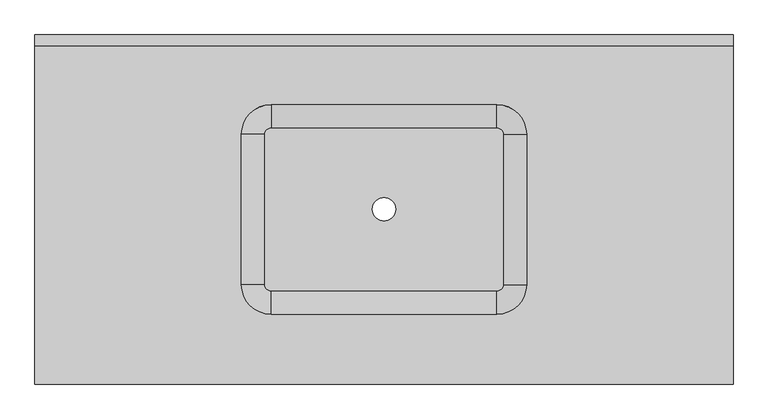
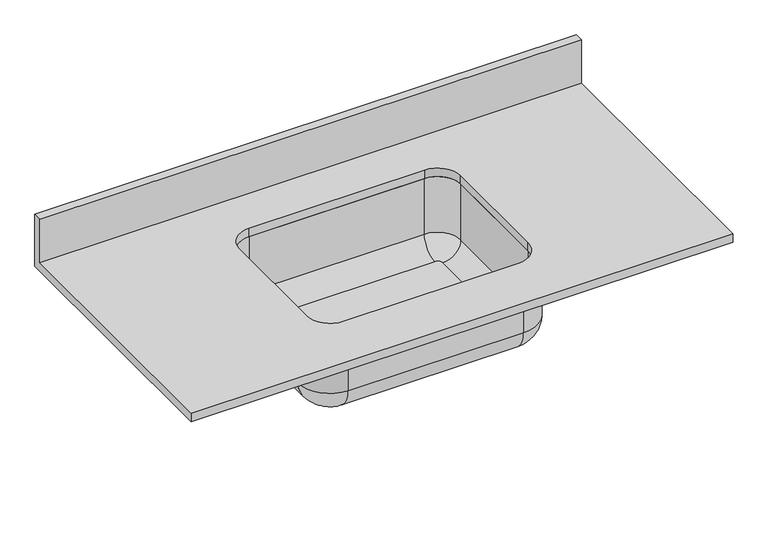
"""IFC4 building model written with IfcOpenShell, lengths in millimetres: furniture geometry, Tampo de Bancada com Cuba : Granilite 60cm."""

import ifcopenshell
import ifcopenshell.guid

model = None  # the IFC model being written
_history = None  # IfcOwnerHistory: only IFC2X3 demands one
_inside = {}  # id of a spatial element -> (the spatial element, [elements in it])
_under = {}  # id of a project, library or spatial element -> (it, [spatial elements below it])
_declared = {}  # id of a project -> (the project, [libraries it declares])
_typed = {}  # id of a type object -> (the type object, [elements of that type])
_made_of = {}  # id of a material, layer set ... -> (it, [elements and type objects made of it])


def new_model(schema):
    """Start an empty IFC model of exactly this schema.

    Asked for "IFC4X3", IfcOpenShell would pick the latest addendum, in which some entities
    have other attributes; the version numbers below select the first issue.
    IFC2X3 requires an IfcOwnerHistory on every rooted entity: one is made here for all.
    """
    global model, _history
    if schema == "IFC4X3":
        model = ifcopenshell.file(schema_version=(4, 3, 0, 0))
    else:
        model = ifcopenshell.file(schema=schema)
    _inside.clear()
    _under.clear()
    _declared.clear()
    _typed.clear()
    _made_of.clear()
    _history = None
    if model.schema == "IFC2X3":
        org = make("IfcOrganization", Name="unknown")
        user = make(
            "IfcPersonAndOrganization",
            ThePerson=make("IfcPerson", FamilyName="unknown"),
            TheOrganization=org,
        )
        app = make(
            "IfcApplication",
            ApplicationDeveloper=org,
            Version="unknown",
            ApplicationFullName="unknown",
            ApplicationIdentifier="unknown",
        )
        _history = make(
            "IfcOwnerHistory",
            OwningUser=user,
            OwningApplication=app,
            ChangeAction="ADDED",
            CreationDate=0,
        )
    return model


def make(cls, **values):
    """One entity of the class cls with the attributes given. An attribute that is None is left unset."""
    return model.create_entity(
        cls, **{name: value for name, value in values.items() if value is not None}
    )


def rooted(cls, **values):
    """An entity with a GlobalId (a new one), such as an element, a storey or a relation."""
    return make(cls, GlobalId=ifcopenshell.guid.new(), OwnerHistory=_history, **values)


def si_unit(unit_type, name, prefix=None):
    """IfcSIUnit, for example si_unit("LENGTHUNIT", "METRE", prefix="MILLI")."""
    return make("IfcSIUnit", UnitType=unit_type, Prefix=prefix, Name=name)


def assignment(units):
    """IfcUnitAssignment: the units of a project."""
    return None if units is None else make("IfcUnitAssignment", Units=units)


def point(xyz):
    """IfcCartesianPoint."""
    return None if xyz is None else make("IfcCartesianPoint", Coordinates=xyz)


def direction(xyz):
    """IfcDirection."""
    return None if xyz is None else make("IfcDirection", DirectionRatios=xyz)


def frame(location, z_axis=None, x_axis=None):
    """IfcAxis2Placement3D, a coordinate frame: its origin and axes. An axis left out is left unset."""
    return make(
        "IfcAxis2Placement3D",
        Location=point(location),
        Axis=direction(z_axis),
        RefDirection=direction(x_axis),
    )


def origin():
    """The frame at (0, 0, 0) with its axes left unset."""
    return frame((0.0, 0.0, 0.0))


def place(relative_to, where):
    """IfcLocalPlacement: puts the frame where relative to a parent placement (None: the world)."""
    return make(
        "IfcLocalPlacement", PlacementRelTo=relative_to, RelativePlacement=where
    )


def context(
    kind, dimensions, precision=None, world=None, true_north=None, identifier=None
):
    """IfcGeometricRepresentationContext, for example the 3D "Model" context."""
    return make(
        "IfcGeometricRepresentationContext",
        ContextIdentifier=identifier,
        ContextType=kind,
        CoordinateSpaceDimension=dimensions,
        Precision=precision,
        WorldCoordinateSystem=world,
        TrueNorth=true_north,
    )


def project(units=None, contexts=None):
    """IfcProject with its units and contexts."""
    return rooted(
        "IfcProject",
        Name="project",
        RepresentationContexts=contexts,
        UnitsInContext=assignment(units),
    )


def spatial(cls, under=None, at=None, **own):
    """A site, building, storey or space (cls), placed at a placement, below another one or the project."""
    s = rooted(cls, ObjectPlacement=at, **own)
    if under is not None:
        _under.setdefault(under.id(), (under, []))[1].append(s)
    return s


def polyline(points):
    """IfcPolyline through the points."""
    return make("IfcPolyline", Points=[point(p) for p in points])


def circle_curve(where, radius):
    """IfcCircle in the frame where."""
    return make("IfcCircle", Position=where, Radius=radius)


def ellipse_curve(where, semi_axis1, semi_axis2):
    """IfcEllipse in the frame where."""
    return make(
        "IfcEllipse", Position=where, SemiAxis1=semi_axis1, SemiAxis2=semi_axis2
    )


def trimmed(basis, trim1, trim2, sense, master):
    """IfcTrimmedCurve: the piece of a basis curve between two trims."""
    return make(
        "IfcTrimmedCurve",
        BasisCurve=basis,
        Trim1=trim1,
        Trim2=trim2,
        SenseAgreement=sense,
        MasterRepresentation=master,
    )


def shape(context_of_items, identifier, shape_type, items):
    """IfcShapeRepresentation: the items that make up one representation, for example the "Body"."""
    return make(
        "IfcShapeRepresentation",
        ContextOfItems=context_of_items,
        RepresentationIdentifier=identifier,
        RepresentationType=shape_type,
        Items=items,
    )


def source(mapping_origin, context_of_items, identifier, shape_type, items):
    """IfcRepresentationMap: a shape defined once, which mapped items show again and again."""
    return make(
        "IfcRepresentationMap",
        MappingOrigin=mapping_origin,
        MappedRepresentation=shape(context_of_items, identifier, shape_type, items),
    )


def transform(
    local_origin,
    x_axis=None,
    y_axis=None,
    z_axis=None,
    scale=None,
    scale2=None,
    scale3=None,
    uniform=True,
):
    """IfcCartesianTransformationOperator3D, or its non-uniform kind. x_axis, y_axis, z_axis: its Axis1, 2, 3."""
    if uniform:
        return make(
            "IfcCartesianTransformationOperator3D",
            Axis1=direction(x_axis),
            Axis2=direction(y_axis),
            LocalOrigin=point(local_origin),
            Scale=scale,
            Axis3=direction(z_axis),
        )
    return make(
        "IfcCartesianTransformationOperator3DnonUniform",
        Axis1=direction(x_axis),
        Axis2=direction(y_axis),
        LocalOrigin=point(local_origin),
        Scale=scale,
        Axis3=direction(z_axis),
        Scale2=scale2,
        Scale3=scale3,
    )


def mapped(mapping_source, mapping_target):
    """IfcMappedItem: shows the shape of a source again, moved by a transform."""
    return make(
        "IfcMappedItem", MappingSource=mapping_source, MappingTarget=mapping_target
    )


def made_of(thing, what):
    """Note that an element or type object is made of a material, layer set ...; save() writes the relation."""
    if what is not None:
        _made_of.setdefault(what.id(), (what, []))[1].append(thing)
    return thing


def element(
    cls,
    number,
    at=None,
    inside=None,
    cuts=None,
    type_object=None,
    material=None,
    context=None,
    identifier="Body",
    shape_type=None,
    held_by="IfcProductDefinitionShape",
    body=None,
    shapes=None,
    **own,
):
    """One element of the class cls, such as IfcWall. Its Tag is "e" and its number.

    at: its placement. inside: the storey or other place that contains it. cuts: it is an
    opening in that element (IfcRelVoidsElement). A single representation is given by context,
    identifier, shape_type and body (its items); several are given by shapes. held_by: the class
    of the entity that holds the representations. save() writes the other relations.
    """
    e = rooted(cls, Tag="e%d" % number, ObjectPlacement=at, **own)
    if body is not None:
        shapes = [shape(context, identifier, shape_type, body)]
    if shapes is not None:
        e.Representation = make(held_by, Representations=shapes)
    if inside is not None:
        _inside.setdefault(inside.id(), (inside, []))[1].append(e)
    if cuts is not None:
        rooted(
            "IfcRelVoidsElement", RelatingBuildingElement=cuts, RelatedOpeningElement=e
        )
    if type_object is not None:
        _typed.setdefault(type_object.id(), (type_object, []))[1].append(e)
    return made_of(e, material)


def aggregate(whole, parts):
    """IfcRelAggregates: a whole, such as a stair, and the parts it consists of."""
    return rooted("IfcRelAggregates", RelatingObject=whole, RelatedObjects=parts)


def save(model, path):
    """Write the relations noted so far, then the file.

    IfcRelAggregates (storeys below a building ...), IfcRelContainedInSpatialStructure (elements
    in a storey), IfcRelDefinesByType, IfcRelAssociatesMaterial and IfcRelDeclares: one each for
    every whole, place, type object, material and project.
    """
    for whole, parts in _under.values():
        aggregate(whole, parts)
    for where, things in _inside.values():
        rooted(
            "IfcRelContainedInSpatialStructure",
            RelatedElements=things,
            RelatingStructure=where,
        )
    for kind, things in _typed.values():
        rooted("IfcRelDefinesByType", RelatedObjects=things, RelatingType=kind)
    for what, things in _made_of.values():
        rooted("IfcRelAssociatesMaterial", RelatedObjects=things, RelatingMaterial=what)
    for by, libraries in _declared.values():
        rooted("IfcRelDeclares", RelatingContext=by, RelatedDefinitions=libraries)
    model.write(path)


def plane_surface(at):
    """IfcPlane: the flat surface through the origin of the frame at, square to its z axis."""
    return make("IfcPlane", Position=at)


def cylinder_surface(at, radius):
    """IfcCylindricalSurface: all points at the distance radius from the z axis of the frame at."""
    return make("IfcCylindricalSurface", Position=at, Radius=radius)


def revolved_surface(curve, axis_point, axis_direction):
    """IfcSurfaceOfRevolution: the curve turned about the line through axis_point along axis_direction."""
    return make(
        "IfcSurfaceOfRevolution",
        SweptCurve=make("IfcArbitraryOpenProfileDef", ProfileType="CURVE", Curve=curve),
        AxisPosition=make("IfcAxis1Placement", Location=point(axis_point), Axis=direction(axis_direction)),
    )


def advanced_brep(points, edges, surfaces, faces):
    """IfcAdvancedBrep: a solid bounded by faces that lie on surfaces and meet in shared edges.

    An edge is (start, end): straight between two places in points (the first is 0);
    or (start, end, curve); or (start, end, curve, False) where it runs against its curve.
    A face is (place in surfaces, loops), or (place, loops, False) where it looks against
    its surface's normal. A loop lists edges by number (the first is 1), with a minus sign
    where the edge is run from its end to its start. The first loop is the outer one.
    """
    corners = [point(p) for p in points]
    vertices = [make("IfcVertexPoint", VertexGeometry=c) for c in corners]
    made = []
    for start, end, *more in edges:
        made.append(
            make(
                "IfcEdgeCurve",
                EdgeStart=vertices[start],
                EdgeEnd=vertices[end],
                EdgeGeometry=more[0] if more else make("IfcPolyline", Points=[corners[start], corners[end]]),
                SameSense=more[1] if len(more) > 1 else True,
            )
        )
    hull = []
    for where, loops, *sense in faces:
        bounds = []
        for j, loop in enumerate(loops):
            ring = [make("IfcOrientedEdge", EdgeElement=made[abs(k) - 1], Orientation=k > 0) for k in loop]
            bounds.append(
                make(
                    "IfcFaceOuterBound" if j == 0 else "IfcFaceBound",
                    Bound=make("IfcEdgeLoop", EdgeList=ring),
                    Orientation=True,
                )
            )
        hull.append(make("IfcAdvancedFace", Bounds=bounds, FaceSurface=surfaces[where], SameSense=sense[0] if sense else True))
    return make("IfcAdvancedBrep", Outer=make("IfcClosedShell", CfsFaces=hull))


def furniture_4236819a(model_context):
    return source(origin(), model_context, "Body", "AdvancedBrep", [
        advanced_brep(
        [(-406.2622951, -100.0, 880.0), (-794.6622951, -100.0, 880.0), (-865.4622951, -170.8, 880.0), (-865.4622951, -429.2, 880.0), (-794.6622951, -500.0, 880.0), (-406.2622951, -500.0, 880.0), (-335.4622951, -429.2, 880.0), (-335.4622951, -170.8, 880.0), (-406.2622951, -120.0, 880.0), (-355.4622951, -170.8, 880.0), (-355.4622951, -429.2, 880.0), (-406.2622951, -480.0, 880.0), (-794.6622951, -480.0, 880.0), (-845.4622951, -429.2, 880.0), (-845.4622951, -170.8, 880.0), (-794.6622951, -120.0, 880.0), (-406.2622951, -120.0, 750.0), (-355.4622951, -170.8, 750.0), (-355.4622951, -429.2, 750.0), (-406.2622951, -480.0, 750.0), (-794.6622951, -480.0, 750.0), (-845.4622951, -429.2, 750.0), (-845.4622951, -170.8, 750.0), (-794.6622951, -120.0, 750.0), (-406.2622951, -100.0, 750.0), (-794.6622951, -100.0, 750.0), (-865.4622951, -170.8, 750.0), (-865.4622951, -429.2, 750.0), (-794.6622951, -500.0, 750.0), (-406.2622951, -500.0, 750.0), (-335.4622951, -429.2, 750.0), (-335.4622951, -170.8, 750.0), (-395.4622951, -170.8, 710.0), (-406.2622951, -160.0, 710.0), (-794.6622951, -160.0, 710.0), (-805.4622951, -170.8, 710.0), (-805.4622951, -429.2, 710.0), (-794.6622951, -440.0, 710.0), (-406.2622951, -440.0, 710.0), (-395.4622951, -429.2, 710.0), (-620.4622951, -299.5288603, 710.0), (-580.4622951, -299.5288603, 710.0), (-406.2622951, -160.0, 690.0), (-395.4622951, -170.8, 690.0), (-395.4622951, -429.2, 690.0), (-406.2622951, -440.0, 690.0), (-794.6622951, -440.0, 690.0), (-805.4622951, -429.2, 690.0), (-805.4622951, -170.8, 690.0), (-794.6622951, -160.0, 690.0), (-620.4622951, -299.5288603, 690.0), (-580.4622951, -299.5288603, 690.0)],
        [
            (0, 1),
            (1, 2, circle_curve(frame((-794.6622951, -170.8, 880.0), z_axis=(0.0, 0.0, 1.0), x_axis=(1.0, 0.0, 0.0)), 70.8)),
            (2, 3),
            (3, 4, circle_curve(frame((-794.6622951, -429.2, 880.0), z_axis=(0.0, 0.0, 1.0), x_axis=(1.0, 0.0, 0.0)), 70.8)),
            (4, 5),
            (5, 6, circle_curve(frame((-406.2622951, -429.2, 880.0), z_axis=(0.0, 0.0, 1.0), x_axis=(1.0, 0.0, 0.0)), 70.8)),
            (6, 7),
            (7, 0, circle_curve(frame((-406.2622951, -170.8, 880.0), z_axis=(0.0, 0.0, 1.0), x_axis=(1.0, 0.0, 0.0)), 70.8)),
            (8, 9, circle_curve(frame((-406.2622951, -170.8, 880.0), z_axis=(0.0, 0.0, -1.0), x_axis=(1.0, 0.0, 0.0)), 50.8)),
            (9, 10),
            (10, 11, circle_curve(frame((-406.2622951, -429.2, 880.0), z_axis=(0.0, 0.0, -1.0), x_axis=(1.0, 0.0, 0.0)), 50.8)),
            (11, 12),
            (12, 13, circle_curve(frame((-794.6622951, -429.2, 880.0), z_axis=(0.0, 0.0, -1.0), x_axis=(1.0, 0.0, 0.0)), 50.8)),
            (13, 14),
            (14, 15, circle_curve(frame((-794.6622951, -170.8, 880.0), z_axis=(0.0, 0.0, -1.0), x_axis=(1.0, 0.0, 0.0)), 50.8)),
            (15, 8),
            (8, 16),
            (16, 17, circle_curve(frame((-406.2622951, -170.8, 750.0), z_axis=(0.0, 0.0, -1.0), x_axis=(1.0, 0.0, 0.0)), 50.8)),
            (17, 9),
            (17, 18),
            (18, 10),
            (18, 19, circle_curve(frame((-406.2622951, -429.2, 750.0), z_axis=(0.0, 0.0, -1.0), x_axis=(1.0, 0.0, 0.0)), 50.8)),
            (19, 11),
            (19, 20),
            (20, 12),
            (20, 21, circle_curve(frame((-794.6622951, -429.2, 750.0), z_axis=(0.0, 0.0, -1.0), x_axis=(1.0, 0.0, 0.0)), 50.8)),
            (21, 13),
            (21, 22),
            (22, 14),
            (22, 23, circle_curve(frame((-794.6622951, -170.8, 750.0), z_axis=(0.0, 0.0, -1.0), x_axis=(1.0, 0.0, 0.0)), 50.8)),
            (23, 15),
            (23, 16),
            (0, 24),
            (24, 25),
            (25, 1),
            (25, 26, circle_curve(frame((-794.6622951, -170.8, 750.0), z_axis=(0.0, 0.0, 1.0), x_axis=(1.0, 0.0, 0.0)), 70.8)),
            (26, 2),
            (26, 27),
            (27, 3),
            (27, 28, circle_curve(frame((-794.6622951, -429.2, 750.0), z_axis=(0.0, 0.0, 1.0), x_axis=(1.0, 0.0, 0.0)), 70.8)),
            (28, 4),
            (28, 29),
            (29, 5),
            (29, 30, circle_curve(frame((-406.2622951, -429.2, 750.0), z_axis=(0.0, 0.0, 1.0), x_axis=(1.0, 0.0, 0.0)), 70.8)),
            (30, 6),
            (30, 31),
            (31, 7),
            (31, 24, circle_curve(frame((-406.2622951, -170.8, 750.0), z_axis=(0.0, 0.0, 1.0), x_axis=(1.0, 0.0, 0.0)), 70.8)),
            (32, 33, circle_curve(frame((-406.2622951, -170.8, 710.0), z_axis=(0.0, 0.0, 1.0), x_axis=(0.0, 1.0, 0.0)), 10.8)),
            (33, 34),
            (34, 35, circle_curve(frame((-794.6622951, -170.8, 710.0), z_axis=(0.0, 0.0, 1.0), x_axis=(-1.0, 0.0, 0.0)), 10.8)),
            (35, 36),
            (36, 37, circle_curve(frame((-794.6622951, -429.2, 710.0), z_axis=(0.0, 0.0, 1.0), x_axis=(0.0, -1.0, 0.0)), 10.8)),
            (37, 38),
            (38, 39, circle_curve(frame((-406.2622951, -429.2, 710.0), z_axis=(0.0, 0.0, 1.0), x_axis=(1.0, 0.0, 0.0)), 10.8)),
            (39, 32),
            (40, 41, circle_curve(frame((-600.4622951, -299.5288603, 710.0), z_axis=(0.0, 0.0, -1.0), x_axis=(1.0, 0.0, 0.0)), 20.0)),
            (41, 40, circle_curve(frame((-600.4622951, -299.5288603, 710.0), z_axis=(0.0, 0.0, -1.0), x_axis=(1.0, 0.0, 0.0)), 20.0)),
            (42, 43, circle_curve(frame((-406.2622951, -170.8, 690.0), z_axis=(0.0, 0.0, -1.0), x_axis=(0.0, 1.0, 0.0)), 10.8)),
            (43, 44),
            (44, 45, circle_curve(frame((-406.2622951, -429.2, 690.0), z_axis=(0.0, 0.0, -1.0), x_axis=(1.0, 0.0, 0.0)), 10.8)),
            (45, 46),
            (46, 47, circle_curve(frame((-794.6622951, -429.2, 690.0), z_axis=(0.0, 0.0, -1.0), x_axis=(0.0, -1.0, 0.0)), 10.8)),
            (47, 48),
            (48, 49, circle_curve(frame((-794.6622951, -170.8, 690.0), z_axis=(0.0, 0.0, -1.0), x_axis=(-1.0, 0.0, 0.0)), 10.8)),
            (49, 42),
            (50, 51, circle_curve(frame((-600.4622951, -299.5288603, 690.0), z_axis=(0.0, 0.0, 1.0), x_axis=(1.0, 0.0, 0.0)), 20.0)),
            (51, 50, circle_curve(frame((-600.4622951, -299.5288603, 690.0), z_axis=(0.0, 0.0, 1.0), x_axis=(1.0, 0.0, 0.0)), 20.0)),
            (40, 50),
            (51, 41),
            (42, 24, circle_curve(frame((-406.2622951, -160.0, 750.0), z_axis=(1.0, 0.0, 0.0), x_axis=(0.0, 1.0, 0.0)), 60.0)),
            (31, 43, circle_curve(frame((-395.4622951, -170.8, 750.0), z_axis=(0.0, 1.0, 0.0), x_axis=(1.0, 0.0, 0.0)), 60.0)),
            (16, 33, circle_curve(frame((-406.2622951, -160.0, 750.0), z_axis=(-1.0, 0.0, 0.0), x_axis=(0.0, 1.0, 0.0)), 40.0)),
            (32, 17, circle_curve(frame((-395.4622951, -170.8, 750.0), z_axis=(0.0, -1.0, 0.0), x_axis=(1.0, 0.0, 0.0)), 40.0)),
            (30, 44, circle_curve(frame((-395.4622951, -429.2, 750.0), z_axis=(0.0, 1.0, 0.0), x_axis=(1.0, 0.0, 0.0)), 60.0)),
            (39, 18, circle_curve(frame((-395.4622951, -429.2, 750.0), z_axis=(0.0, -1.0, 0.0), x_axis=(1.0, 0.0, 0.0)), 40.0)),
            (29, 45, circle_curve(frame((-406.2622951, -440.0, 750.0), z_axis=(1.0, 0.0, 0.0), x_axis=(0.0, -1.0, 0.0)), 60.0)),
            (38, 19, circle_curve(frame((-406.2622951, -440.0, 750.0), z_axis=(-1.0, 0.0, 0.0), x_axis=(0.0, -1.0, 0.0)), 40.0)),
            (28, 46, circle_curve(frame((-794.6622951, -440.0, 750.0), z_axis=(1.0, 0.0, 0.0), x_axis=(0.0, -1.0, 0.0)), 60.0)),
            (37, 20, circle_curve(frame((-794.6622951, -440.0, 750.0), z_axis=(-1.0, 0.0, 0.0), x_axis=(0.0, -1.0, 0.0)), 40.0)),
            (27, 47, circle_curve(frame((-805.4622951, -429.2, 750.0), z_axis=(0.0, -1.0, 0.0), x_axis=(-1.0, 0.0, 0.0)), 60.0)),
            (36, 21, circle_curve(frame((-805.4622951, -429.2, 750.0), z_axis=(0.0, 1.0, 0.0), x_axis=(-1.0, 0.0, 0.0)), 40.0)),
            (26, 48, circle_curve(frame((-805.4622951, -170.8, 750.0), z_axis=(0.0, -1.0, 0.0), x_axis=(-1.0, 0.0, 0.0)), 60.0)),
            (35, 22, circle_curve(frame((-805.4622951, -170.8, 750.0), z_axis=(0.0, 1.0, 0.0), x_axis=(-1.0, 0.0, 0.0)), 40.0)),
            (25, 49, circle_curve(frame((-794.6622951, -160.0, 750.0), z_axis=(-1.0, 0.0, 0.0), x_axis=(0.0, 1.0, 0.0)), 60.0)),
            (34, 23, circle_curve(frame((-794.6622951, -160.0, 750.0), z_axis=(1.0, 0.0, 0.0), x_axis=(0.0, 1.0, 0.0)), 40.0)),
        ],
        [
            plane_surface(frame((-355.4622951, -170.8, 880.0), z_axis=(0.0, 0.0, 1.0), x_axis=(0.0, -1.0, 0.0))),
            revolved_surface(polyline([(-355.4622951, -170.8, 750.0), (-355.4622951, -170.8, 880.0)]), (-406.2622951, -170.8, 750.0), (0.0, 0.0, -1.0)),
            plane_surface(frame((-355.4622951, -170.8, 880.0), z_axis=(-1.0, 0.0, 0.0), x_axis=(0.0, 0.0, -1.0))),
            revolved_surface(polyline([(-355.4622951, -429.2, 750.0), (-355.4622951, -429.2, 880.0)]), (-406.2622951, -429.2, 750.0), (0.0, 0.0, -1.0)),
            plane_surface(frame((-406.2622951, -480.0, 880.0), z_axis=(0.0, 1.0, 0.0), x_axis=(0.0, 0.0, -1.0))),
            revolved_surface(polyline([(-743.8622951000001, -429.2, 750.0), (-743.8622951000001, -429.2, 880.0)]), (-794.6622951, -429.2, 750.0), (0.0, 0.0, -1.0)),
            plane_surface(frame((-845.4622951, -429.2, 880.0), z_axis=(1.0, 0.0, 0.0), x_axis=(0.0, 0.0, -1.0))),
            revolved_surface(polyline([(-743.8622951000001, -170.8, 750.0), (-743.8622951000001, -170.8, 880.0)]), (-794.6622951, -170.8, 750.0), (0.0, 0.0, -1.0)),
            plane_surface(frame((-794.6622951, -120.0, 880.0), z_axis=(0.0, -1.0, 0.0), x_axis=(0.0, 0.0, -1.0))),
            plane_surface(frame((-406.2622951, -100.0, 880.0), z_axis=(0.0, 1.0, 0.0), x_axis=(0.0, 0.0, -1.0))),
            cylinder_surface(frame((-794.6622951, -170.8, 0.0), z_axis=(0.0, 0.0, 1.0), x_axis=(1.0, 0.0, 0.0)), 70.8),
            plane_surface(frame((-865.4622951, -170.8, 880.0), z_axis=(-1.0, 0.0, 0.0), x_axis=(0.0, 0.0, -1.0))),
            cylinder_surface(frame((-794.6622951, -429.2, 0.0), z_axis=(0.0, 0.0, 1.0), x_axis=(1.0, 0.0, 0.0)), 70.8),
            plane_surface(frame((-794.6622951, -500.0, 880.0), z_axis=(0.0, -1.0, 0.0), x_axis=(0.0, 0.0, -1.0))),
            cylinder_surface(frame((-406.2622951, -429.2, 0.0), z_axis=(0.0, 0.0, 1.0), x_axis=(1.0, 0.0, 0.0)), 70.8),
            plane_surface(frame((-335.4622951, -429.2, 880.0), z_axis=(1.0, 0.0, 0.0), x_axis=(0.0, 0.0, -1.0))),
            cylinder_surface(frame((-406.2622951, -170.8, 0.0), z_axis=(0.0, 0.0, 1.0), x_axis=(1.0, 0.0, 0.0)), 70.8),
            plane_surface(frame((-794.6622951, -160.0, 710.0), z_axis=(0.0, 0.0, 1.0), x_axis=(-1.0, 0.0, 0.0))),
            plane_surface(frame((-794.6622951, -160.0, 690.0), z_axis=(0.0, 0.0, -1.0), x_axis=(1.0, 0.0, 0.0))),
            revolved_surface(polyline([(-580.4622951, -299.5288603, 690.0), (-580.4622951, -299.5288603, 710.0)]), (-600.4622951, -299.5288603, 0.0), (0.0, 0.0, -1.0)),
            revolved_surface(trimmed(ellipse_curve(frame((-406.2622951, -160.0, 750.0), z_axis=(-1.0, 0.0, 0.0), x_axis=(0.0, 1.0, 0.0)), 60.0, 60.0), [point((-406.2622951, -100.0, 750.0))], [point((-406.2622951, -160.0, 690.0))], True, "CARTESIAN"), (-406.2622951, -170.8, 0.0), (0.0, 0.0, -1.0)),
            revolved_surface(trimmed(ellipse_curve(frame((-406.2622951, -160.0, 750.0), z_axis=(1.0, 0.0, 0.0), x_axis=(0.0, 1.0, 0.0)), 40.0, 40.0), [point((-406.2622951, -160.0, 710.0))], [point((-406.2622951, -120.0, 750.0))], True, "CARTESIAN"), (-406.2622951, -170.8, 0.0), (0.0, 0.0, -1.0)),
            cylinder_surface(frame((-395.4622951, -170.8, 750.0), z_axis=(0.0, 1.0, 0.0), x_axis=(1.0, 0.0, 0.0)), 60.0),
            revolved_surface(polyline([(-355.4622951, -429.2, 750.0), (-355.4622951, -170.8, 750.0)]), (-395.4622951, -170.8, 750.0), (0.0, -1.0, 0.0)),
            revolved_surface(trimmed(ellipse_curve(frame((-395.4622951, -429.2, 750.0), z_axis=(0.0, 1.0, 0.0), x_axis=(1.0, 0.0, 0.0)), 60.0, 60.0), [point((-335.4622951, -429.2, 750.0))], [point((-395.4622951, -429.2, 690.0))], True, "CARTESIAN"), (-406.2622951, -429.2, 0.0), (0.0, 0.0, -1.0)),
            revolved_surface(trimmed(ellipse_curve(frame((-395.4622951, -429.2, 750.0), z_axis=(0.0, -1.0, 0.0), x_axis=(1.0, 0.0, 0.0)), 40.0, 40.0), [point((-395.4622951, -429.2, 710.0))], [point((-355.4622951, -429.2, 750.0))], True, "CARTESIAN"), (-406.2622951, -429.2, 0.0), (0.0, 0.0, -1.0)),
            cylinder_surface(frame((-406.2622951, -440.0, 750.0), z_axis=(1.0, 0.0, 0.0), x_axis=(0.0, -1.0, 0.0)), 60.0),
            revolved_surface(polyline([(-794.6622951, -480.0, 750.0), (-406.2622951, -480.0, 750.0)]), (-406.2622951, -440.0, 750.0), (-1.0, 0.0, 0.0)),
            revolved_surface(trimmed(ellipse_curve(frame((-794.6622951, -440.0, 750.0), z_axis=(1.0, 0.0, 0.0), x_axis=(0.0, -1.0, 0.0)), 60.0, 60.0), [point((-794.6622951, -500.0, 750.0))], [point((-794.6622951, -440.0, 690.0))], True, "CARTESIAN"), (-794.6622951, -429.2, 0.0), (0.0, 0.0, -1.0)),
            revolved_surface(trimmed(ellipse_curve(frame((-794.6622951, -440.0, 750.0), z_axis=(-1.0, 0.0, 0.0), x_axis=(0.0, -1.0, 0.0)), 40.0, 40.0), [point((-794.6622951, -440.0, 710.0))], [point((-794.6622951, -480.0, 750.0))], True, "CARTESIAN"), (-794.6622951, -429.2, 0.0), (0.0, 0.0, -1.0)),
            cylinder_surface(frame((-805.4622951, -429.2, 750.0), z_axis=(0.0, -1.0, 0.0), x_axis=(-1.0, 0.0, 0.0)), 60.0),
            revolved_surface(polyline([(-845.4622951, -170.8, 750.0), (-845.4622951, -429.2, 750.0)]), (-805.4622951, -429.2, 750.0), (0.0, 1.0, 0.0)),
            revolved_surface(trimmed(ellipse_curve(frame((-805.4622951, -170.8, 750.0), z_axis=(0.0, -1.0, 0.0), x_axis=(-1.0, 0.0, 0.0)), 60.0, 60.0), [point((-865.4622951, -170.8, 750.0))], [point((-805.4622951, -170.8, 690.0))], True, "CARTESIAN"), (-794.6622951, -170.8, 0.0), (0.0, 0.0, -1.0)),
            revolved_surface(trimmed(ellipse_curve(frame((-805.4622951, -170.8, 750.0), z_axis=(0.0, 1.0, 0.0), x_axis=(-1.0, 0.0, 0.0)), 40.0, 40.0), [point((-805.4622951, -170.8, 710.0))], [point((-845.4622951, -170.8, 750.0))], True, "CARTESIAN"), (-794.6622951, -170.8, 0.0), (0.0, 0.0, -1.0)),
            cylinder_surface(frame((-794.6622951, -160.0, 750.0), z_axis=(-1.0, 0.0, 0.0), x_axis=(0.0, 1.0, 0.0)), 60.0),
            revolved_surface(polyline([(-406.2622951, -120.0, 750.0), (-794.6622951, -120.0, 750.0)]), (-794.6622951, -160.0, 750.0), (1.0, 0.0, 0.0)),
        ],
        [
            (0, [[1, 2, 3, 4, 5, 6, 7, 8], [9, 10, 11, 12, 13, 14, 15, 16]]),
            (1, [[-9, 17, 18, 19]]),
            (2, [[-10, -19, 20, 21]]),
            (3, [[-11, -21, 22, 23]]),
            (4, [[-12, -23, 24, 25]]),
            (5, [[-13, -25, 26, 27]]),
            (6, [[-14, -27, 28, 29]]),
            (7, [[-15, -29, 30, 31]]),
            (8, [[-16, -31, 32, -17]]),
            (9, [[-1, 33, 34, 35]]),
            (10, [[-2, -35, 36, 37]]),
            (11, [[-3, -37, 38, 39]]),
            (12, [[-4, -39, 40, 41]]),
            (13, [[-5, -41, 42, 43]]),
            (14, [[-6, -43, 44, 45]]),
            (15, [[-7, -45, 46, 47]]),
            (16, [[-8, -47, 48, -33]]),
            (17, [[49, 50, 51, 52, 53, 54, 55, 56], [57, 58]]),
            (18, [[59, 60, 61, 62, 63, 64, 65, 66], [67, 68]]),
            (19, [[-57, 69, -68, 70]]),
            (19, [[-58, -70, -67, -69]]),
            (20, [[71, -48, 72, -59]]),
            (21, [[73, -49, 74, -18]]),
            (22, [[-72, -46, 75, -60]]),
            (23, [[-74, -56, 76, -20]]),
            (24, [[-75, -44, 77, -61]]),
            (25, [[-76, -55, 78, -22]]),
            (26, [[-77, -42, 79, -62]]),
            (27, [[-78, -54, 80, -24]]),
            (28, [[-79, -40, 81, -63]]),
            (29, [[-80, -53, 82, -26]]),
            (30, [[-81, -38, 83, -64]]),
            (31, [[-82, -52, 84, -28]]),
            (32, [[-83, -36, 85, -65]]),
            (33, [[-84, -51, 86, -30]]),
            (34, [[-71, -66, -85, -34]]),
            (35, [[-73, -32, -86, -50]]),
        ],
    ),
        advanced_brep(
        [(-1200.4622951, -600.0, 900.0), (-0.4622951, -600.0, 900.0), (-0.4622951, -19.05, 900.0), (-1200.4622951, -19.05, 900.0), (-794.6622951, -120.0, 900.0), (-406.2622951, -120.0, 900.0), (-355.4622951, -170.8, 900.0), (-355.4622951, -429.2, 900.0), (-406.2622951, -480.0, 900.0), (-794.6622951, -480.0, 900.0), (-845.4622951, -429.2, 900.0), (-845.4622951, -170.8, 900.0), (-0.4622951, 0.0, 880.0), (-0.4622951, -600.0, 880.0), (-1200.4622951, -600.0, 880.0), (-1200.4622951, 0.0, 880.0), (-406.2622951, -120.0, 880.0), (-794.6622951, -120.0, 880.0), (-845.4622951, -170.8, 880.0), (-845.4622951, -429.2, 880.0), (-794.6622951, -480.0, 880.0), (-406.2622951, -480.0, 880.0), (-355.4622951, -429.2, 880.0), (-355.4622951, -170.8, 880.0), (-1200.4622951, 0.0, 1001.6), (-0.4622951, 0.0, 1001.6), (-1200.4622951, -19.05, 1001.6), (-0.4622951, -19.05, 1001.6)],
        [
            (0, 1),
            (1, 2),
            (2, 3),
            (3, 0),
            (4, 5),
            (5, 6, circle_curve(frame((-406.2622951, -170.8, 900.0), z_axis=(0.0, 0.0, -1.0), x_axis=(1.0, 0.0, 0.0)), 50.8)),
            (6, 7),
            (7, 8, circle_curve(frame((-406.2622951, -429.2, 900.0), z_axis=(0.0, 0.0, -1.0), x_axis=(1.0, 0.0, 0.0)), 50.8)),
            (8, 9),
            (9, 10, circle_curve(frame((-794.6622951, -429.2, 900.0), z_axis=(0.0, 0.0, -1.0), x_axis=(1.0, 0.0, 0.0)), 50.8)),
            (10, 11),
            (11, 4, circle_curve(frame((-794.6622951, -170.8, 900.0), z_axis=(0.0, 0.0, -1.0), x_axis=(1.0, 0.0, 0.0)), 50.8)),
            (12, 13),
            (13, 14),
            (14, 15),
            (15, 12),
            (16, 17),
            (17, 18, circle_curve(frame((-794.6622951, -170.8, 880.0), z_axis=(0.0, 0.0, 1.0), x_axis=(1.0, 0.0, 0.0)), 50.8)),
            (18, 19),
            (19, 20, circle_curve(frame((-794.6622951, -429.2, 880.0), z_axis=(0.0, 0.0, 1.0), x_axis=(1.0, 0.0, 0.0)), 50.8)),
            (20, 21),
            (21, 22, circle_curve(frame((-406.2622951, -429.2, 880.0), z_axis=(0.0, 0.0, 1.0), x_axis=(1.0, 0.0, 0.0)), 50.8)),
            (22, 23),
            (23, 16, circle_curve(frame((-406.2622951, -170.8, 880.0), z_axis=(0.0, 0.0, 1.0), x_axis=(1.0, 0.0, 0.0)), 50.8)),
            (15, 24),
            (24, 25),
            (25, 12),
            (14, 0),
            (3, 26),
            (26, 24),
            (13, 1),
            (25, 27),
            (27, 2),
            (26, 27),
            (4, 17),
            (16, 5),
            (11, 18),
            (10, 19),
            (9, 20),
            (8, 21),
            (7, 22),
            (6, 23),
        ],
        [
            plane_surface(frame((-1200.4622951, 0.0, 900.0), z_axis=(0.0, 0.0, 1.0), x_axis=(-1.0, 0.0, 0.0))),
            plane_surface(frame((-1200.4622951, 0.0, 880.0), z_axis=(0.0, 0.0, -1.0), x_axis=(1.0, 0.0, 0.0))),
            plane_surface(frame((-0.4622951, 0.0, 900.0), z_axis=(0.0, 1.0, 0.0), x_axis=(0.0, 0.0, -1.0))),
            plane_surface(frame((-1200.4622951, 0.0, 900.0), z_axis=(-1.0, 0.0, 0.0), x_axis=(0.0, 0.0, -1.0))),
            plane_surface(frame((-1200.4622951, -600.0, 900.0), z_axis=(0.0, -1.0, 0.0), x_axis=(0.0, 0.0, -1.0))),
            plane_surface(frame((-0.4622951, -600.0, 900.0), z_axis=(1.0, 0.0, 0.0), x_axis=(0.0, 0.0, -1.0))),
            plane_surface(frame((-1200.4622951, 0.0, 1001.6), z_axis=(0.0, 0.0, 1.0), x_axis=(0.0, -1.0, 0.0))),
            plane_surface(frame((-1200.4622951, -19.05, 1001.6), z_axis=(0.0, -1.0, 0.0), x_axis=(0.0, 0.0, -1.0))),
            plane_surface(frame((-406.2622951, -120.0, 900.0), z_axis=(0.0, -1.0, 0.0), x_axis=(0.0, 0.0, -1.0))),
            revolved_surface(polyline([(-743.8622951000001, -170.8, 900.0), (-743.8622951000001, -170.8, 880.0)]), (-794.6622951, -170.8, 880.0), (0.0, 0.0, 1.0)),
            plane_surface(frame((-845.4622951, -170.8, 900.0), z_axis=(1.0, 0.0, 0.0), x_axis=(0.0, 0.0, -1.0))),
            revolved_surface(polyline([(-743.8622951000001, -429.2, 900.0), (-743.8622951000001, -429.2, 880.0)]), (-794.6622951, -429.2, 880.0), (0.0, 0.0, 1.0)),
            plane_surface(frame((-794.6622951, -480.0, 900.0), z_axis=(0.0, 1.0, 0.0), x_axis=(0.0, 0.0, -1.0))),
            revolved_surface(polyline([(-355.4622951, -429.2, 900.0), (-355.4622951, -429.2, 880.0)]), (-406.2622951, -429.2, 880.0), (0.0, 0.0, 1.0)),
            plane_surface(frame((-355.4622951, -429.2, 900.0), z_axis=(-1.0, 0.0, 0.0), x_axis=(0.0, 0.0, -1.0))),
            revolved_surface(polyline([(-355.4622951, -170.8, 900.0), (-355.4622951, -170.8, 880.0)]), (-406.2622951, -170.8, 880.0), (0.0, 0.0, 1.0)),
        ],
        [
            (0, [[1, 2, 3, 4], [5, 6, 7, 8, 9, 10, 11, 12]]),
            (1, [[13, 14, 15, 16], [17, 18, 19, 20, 21, 22, 23, 24]]),
            (2, [[-16, 25, 26, 27]]),
            (3, [[-15, 28, -4, 29, 30, -25]]),
            (4, [[-1, -28, -14, 31]]),
            (5, [[-13, -27, 32, 33, -2, -31]]),
            (6, [[-30, 34, -32, -26]]),
            (7, [[-34, -29, -3, -33]]),
            (8, [[35, -17, 36, -5]]),
            (9, [[-35, -12, 37, -18]]),
            (10, [[-37, -11, 38, -19]]),
            (11, [[-38, -10, 39, -20]]),
            (12, [[-39, -9, 40, -21]]),
            (13, [[-40, -8, 41, -22]]),
            (14, [[-41, -7, 42, -23]]),
            (15, [[-36, -24, -42, -6]]),
        ],
    ),
    ])


if __name__ == "__main__":
    model = new_model("IFC4")
    model_context = context("Model", 3, world=origin())
    ifc_project = project(units=[si_unit("LENGTHUNIT", "METRE", prefix="MILLI")], contexts=[model_context])
    site = spatial("IfcSite", under=ifc_project)
    building = spatial("IfcBuilding", under=site)
    placement = place(None, origin())
    furniture_shape = furniture_4236819a(model_context)
    element("IfcFurniture", 1, ObjectType="Tampo de Bancada com Cuba : Granilite 60cm", at=placement, inside=building, context=model_context, shape_type="MappedRepresentation", body=[
        mapped(furniture_shape, transform((0.0, 0.0, 0.0), x_axis=(1.0, 0.0, 0.0), y_axis=(0.0, 1.0, 0.0), z_axis=(0.0, 0.0, 1.0))),
    ])
    save(model, "model.ifc")
